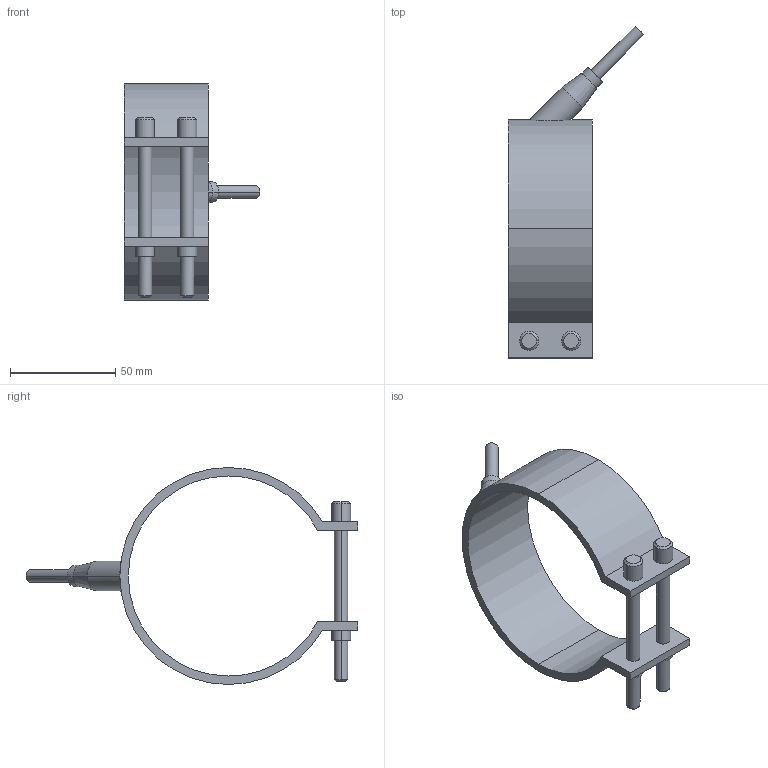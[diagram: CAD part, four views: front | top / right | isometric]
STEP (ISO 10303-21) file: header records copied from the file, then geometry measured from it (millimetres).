
FILE_DESCRIPTION(('CATIA V5 STEP Exchange'),'2;1');
FILE_NAME('C:\Users\Utente\Desktop\IO LAVORO\3D X SITO CF\X SITO\PLASTICA\RF1\29095040.stp','2021-03-29T17:53:07+00:00',('none'),('none'),'CATIA Version 5 Release 20 GA (IN-10)','CATIA V5 STEP AP203','none');
FILE_SCHEMA(('CONFIG_CONTROL_DESIGN'));
Length unit declared in the file: millimetre
Products named in the file (1): 29095040
Bounding box: 64.55 x 157.55 x 103 mm (x, y, z)
Volume: 58179.8 mm3; surface area: 31308 mm2
Topology: 1 solids, 1 shells, 54 faces, 123 edges, 79 vertices
Faces by surface type: cylinder 28, plane 16, cone 10
Entity records: 1728 total; most frequent: CARTESIAN_POINT 496, ORIENTED_EDGE 246, DIRECTION 213, EDGE_CURVE 123, AXIS2_PLACEMENT_3D 106, VERTEX_POINT 79, EDGE_LOOP 66, VECTOR 56
